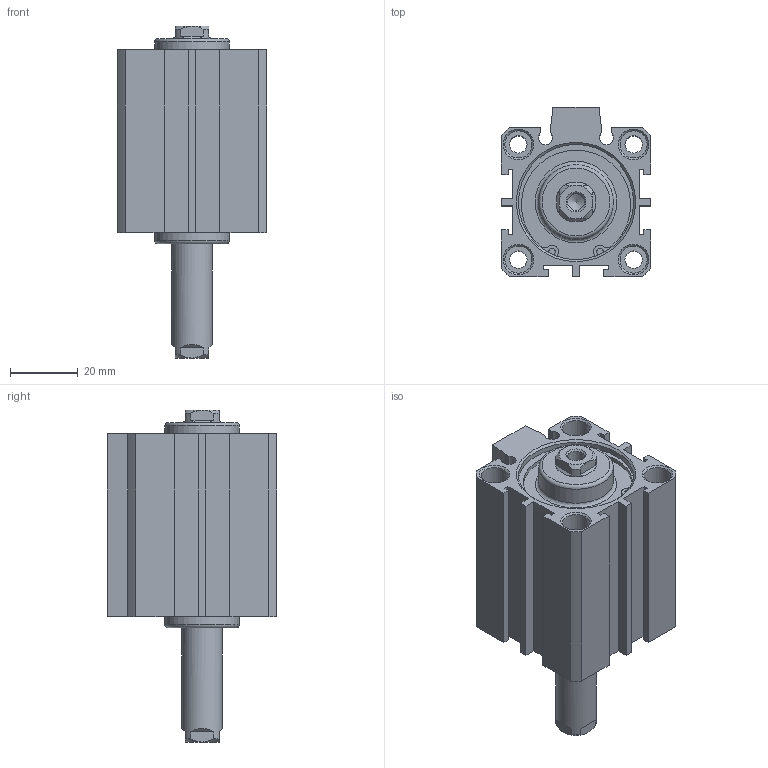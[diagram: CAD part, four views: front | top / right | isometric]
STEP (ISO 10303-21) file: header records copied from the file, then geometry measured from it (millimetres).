
FILE_DESCRIPTION((''),'2;1');
FILE_NAME('I:\3D電子目錄\氣缸\JDD\JDD\JDD32\JDD32x30.stp','2007-02-08T10:16:06',('662F206'),(''),'Autodesk Inventor 10','Autodesk Inventor 10','');
FILE_SCHEMA(('AUTOMOTIVE_DESIGN { 1 0 10303 214 1 1 1 1 }'));
Length unit declared in the file: millimetre
Products named in the file (3): JDD32; R 形環 35
Assembly tree (3 placements, depth 2):
  JDD32
    JDD32
    R 形環 35  x2
Bounding box: 44 x 50 x 98 mm (x, y, z)
Volume: 93989.9 mm3; surface area: 27319.9 mm2
Topology: 3 solids, 3 shells, 177 faces, 425 edges, 276 vertices
Faces by surface type: plane 94, cylinder 49, cone 22, bspline 10, torus 2
Full cylindrical faces by diameter (mm): 1.9 x4, 2.2 x2, 5.1 x4, 8 x8, 12 x1, 22 x2, 34 x4, 36 x2
Entity records: 4715 total; most frequent: CARTESIAN_POINT 983, DIRECTION 774, ORIENTED_EDGE 674, EDGE_CURVE 337, AXIS2_PLACEMENT_3D 292, EDGE_LOOP 248, VERTEX_POINT 247, VECTOR 190
